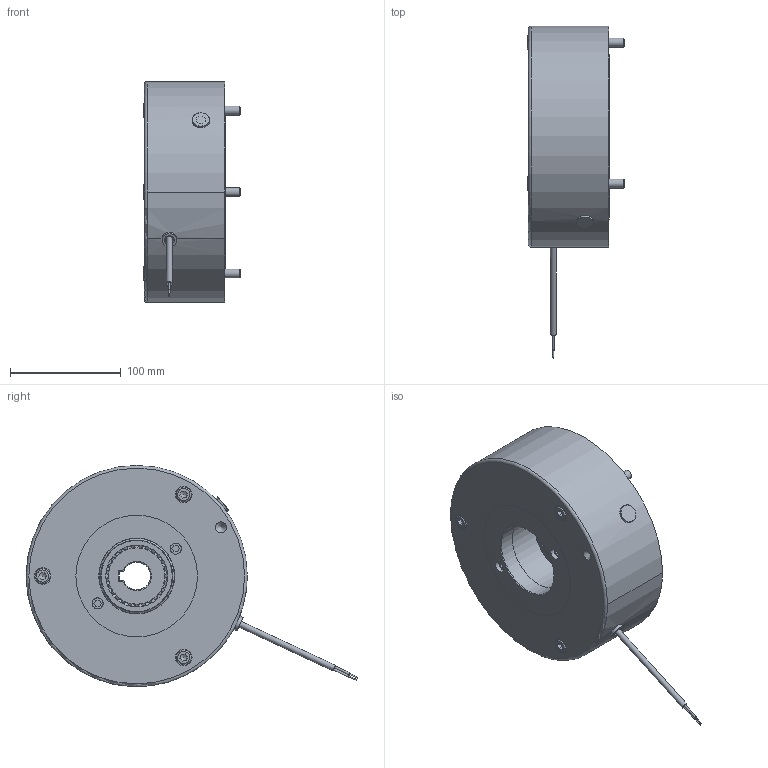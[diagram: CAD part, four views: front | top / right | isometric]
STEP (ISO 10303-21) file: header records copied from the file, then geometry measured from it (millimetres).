
FILE_DESCRIPTION(/* description */ (''),/* implementation_level */ '2;1');
FILE_NAME(/* name */ 'C:\SapWorkDir\Inventor\IP1\ConvertTempPath\5028807_IPT_000.ipt.stp',/* time_stamp */ '2020-09-18T13:30:55+02:00',/* author */ ('STRATE'),/* organization */ (''),/* preprocessor_version */ 'ST-DEVELOPER v17',/* originating_system */ 'Autodesk Inventor 2018',/* authorisation */ '');
FILE_SCHEMA (('AUTOMOTIVE_DESIGN { 1 0 10303 214 3 1 1 }'));
Length unit declared in the file: millimetre
Products named in the file (1): 5028807
Bounding box: 88 x 299.97 x 199.96 mm (x, y, z)
Volume: 1923711.3 mm3; surface area: 244673.7 mm2
Topology: 3 solids, 3 shells, 483 faces, 1344 edges, 915 vertices
Faces by surface type: cylinder 276, plane 109, cone 77, torus 21
Full cylindrical faces by diameter (mm): 0.01 x1, 1 x2, 1.85 x2, 5 x1, 5.3 x1, 7 x1, 7.6 x1, 8 x7, 8.2 x3, 8.3 x2, 8.5 x1, 8.6 x3, 10 x6, 10.106 x2, 11 x2, 13 x5, 13.2 x1, 13.9 x3, 15 x3, 16 x1, 68 x1, 70 x1, 70.2 x1, 103.8 x2, 104.1 x2, 110 x1, 149 x1, 185 x1, 189 x1, 196.4 x1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
Entity records: 17283 total; most frequent: CARTESIAN_POINT 4000, DIRECTION 2728, ORIENTED_EDGE 2684, EDGE_CURVE 1342, AXIS2_PLACEMENT_3D 1159, VERTEX_POINT 915, CIRCLE 675, EDGE_LOOP 563
